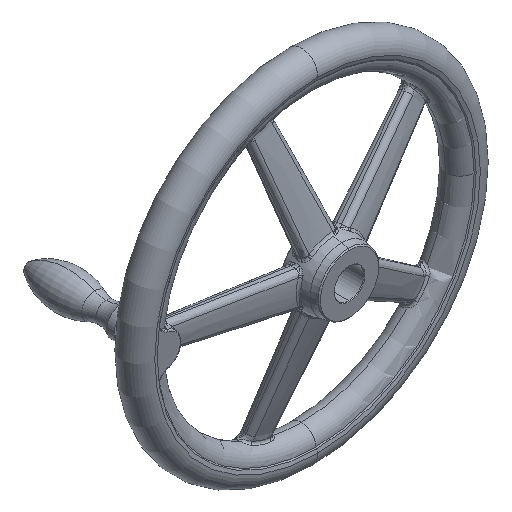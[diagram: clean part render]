
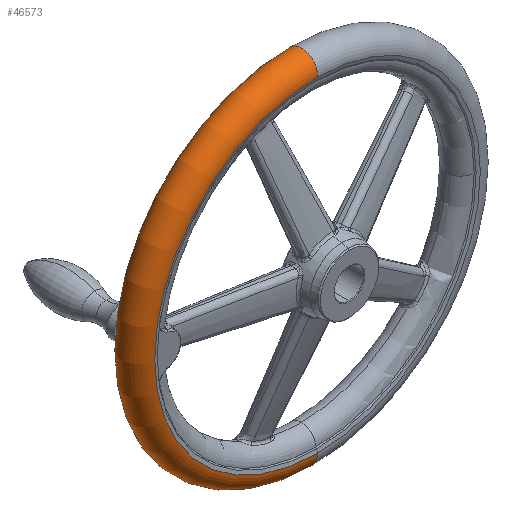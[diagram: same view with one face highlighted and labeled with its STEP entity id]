
A CAD part, isometric view. The second image highlights one B-rep face of the part: STEP entity #46573.
In plain terms, the highlighted toroidal (fillet/blend) face has major radius 143.462 mm and minor radius 14.039 mm.
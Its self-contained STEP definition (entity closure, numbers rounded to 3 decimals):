
#579 = ORIENTED_EDGE ( 'NONE', *, *, #46644, .T. ) ;
#1463 = EDGE_CURVE ( 'NONE', #43896, #43890, #28514, .T. ) ;
#9773 = EDGE_LOOP ( 'NONE', ( #46587, #579, #25934, #26021 ) ) ;
#12325 = CIRCLE ( 'NONE', #12333, 14.038 ) ;
#12333 = AXIS2_PLACEMENT_3D ( 'NONE', #12339, #12488, #12487 ) ;
#12339 = CARTESIAN_POINT ( 'NONE',  ( 0., 42., -143.462 ) ) ;
#12346 = CARTESIAN_POINT ( 'NONE',  ( 0., 56., -142.423 ) ) ;
#12487 = DIRECTION ( 'NONE',  ( 0., 0., 1. ) ) ;
#12488 = DIRECTION ( 'NONE',  ( -1., 0., 0. ) ) ;
#12503 = CARTESIAN_POINT ( 'NONE',  ( 0., 28., -142.423 ) ) ;
#12509 = CARTESIAN_POINT ( 'NONE',  ( 0., 28., 142.423 ) ) ;
#15744 = CARTESIAN_POINT ( 'NONE',  ( 0., 56., 142.423 ) ) ;
#16207 = CARTESIAN_POINT ( 'NONE',  ( 0., 42., 143.462 ) ) ;
#16210 = AXIS2_PLACEMENT_3D ( 'NONE', #16207, #16220, #16286 ) ;
#16220 = DIRECTION ( 'NONE',  ( 1., 0., 0. ) ) ;
#16237 = CIRCLE ( 'NONE', #16210, 14.038 ) ;
#16286 = DIRECTION ( 'NONE',  ( 0., 0., -1. ) ) ;
#16305 = DIRECTION ( 'NONE',  ( 0., 0., -1. ) ) ;
#16306 = DIRECTION ( 'NONE',  ( 0., -1., 0. ) ) ;
#16307 = CARTESIAN_POINT ( 'NONE',  ( 0., 42., 0. ) ) ;
#16308 = AXIS2_PLACEMENT_3D ( 'NONE', #16307, #16306, #16305 ) ;
#16309 = TOROIDAL_SURFACE ( 'NONE', #16308, 143.462, 14.038 ) ;
#16318 = FACE_OUTER_BOUND ( 'NONE', #9773, .T. ) ;
#16322 = DIRECTION ( 'NONE',  ( 0., 0., -1. ) ) ;
#16323 = DIRECTION ( 'NONE',  ( 0., -1., 0. ) ) ;
#16324 = AXIS2_PLACEMENT_3D ( 'NONE', #16331, #16323, #16322 ) ;
#16331 = CARTESIAN_POINT ( 'NONE',  ( 0., 56., 0. ) ) ;
#16348 = CIRCLE ( 'NONE', #16324, 142.423 ) ;
#25934 = ORIENTED_EDGE ( 'NONE', *, *, #43619, .T. ) ;
#26021 = ORIENTED_EDGE ( 'NONE', *, *, #1463, .F. ) ;
#28512 = AXIS2_PLACEMENT_3D ( 'NONE', #28521, #28522, #28533 ) ;
#28514 = CIRCLE ( 'NONE', #28512, 142.423 ) ;
#28521 = CARTESIAN_POINT ( 'NONE',  ( 0., 28., 0. ) ) ;
#28522 = DIRECTION ( 'NONE',  ( 0., -1., 0. ) ) ;
#28533 = DIRECTION ( 'NONE',  ( 0., 0., -1. ) ) ;
#43619 = EDGE_CURVE ( 'NONE', #43667, #43890, #12325, .T. ) ;
#43667 = VERTEX_POINT ( 'NONE', #12346 ) ;
#43890 = VERTEX_POINT ( 'NONE', #12503 ) ;
#43896 = VERTEX_POINT ( 'NONE', #12509 ) ;
#46003 = VERTEX_POINT ( 'NONE', #15744 ) ;
#46550 = EDGE_CURVE ( 'NONE', #46003, #43896, #16237, .T. ) ;
#46573 = ADVANCED_FACE ( 'NONE', ( #16318 ), #16309, .T. ) ;
#46587 = ORIENTED_EDGE ( 'NONE', *, *, #46550, .F. ) ;
#46644 = EDGE_CURVE ( 'NONE', #46003, #43667, #16348, .T. ) ;
